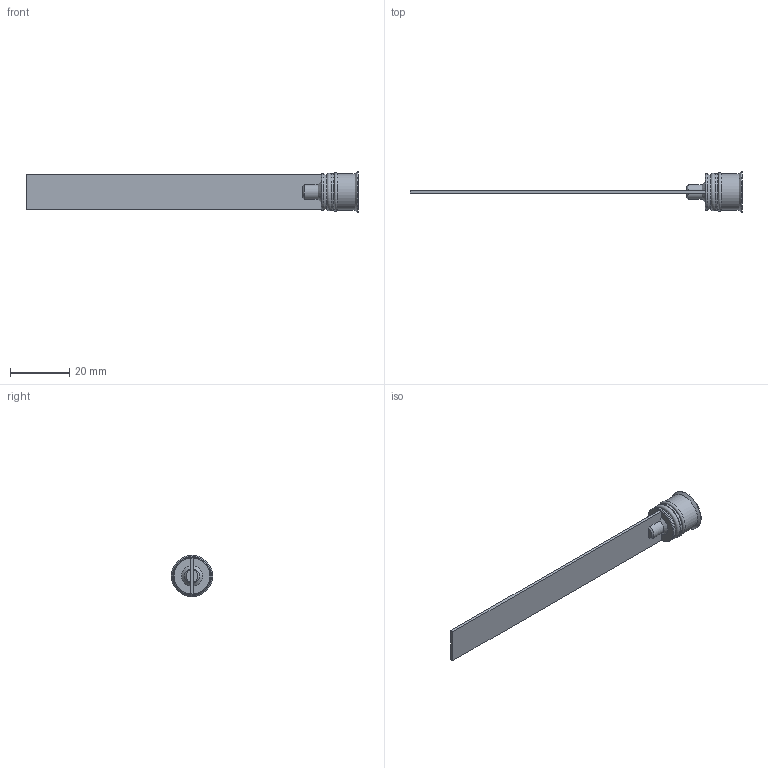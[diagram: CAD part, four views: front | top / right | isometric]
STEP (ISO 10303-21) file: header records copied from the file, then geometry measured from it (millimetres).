
FILE_DESCRIPTION( ( 'STEP AP214' ), '1' );
FILE_NAME( 'p:/temp/worker_256/temp/exporttempdir_3268_593_DZWyD/format_0/RL-12x100.stp', '2021-02-05T19:41:21', ( 'License CC BY-ND 4.0' ), ( 'CADENAS' ), ' ', 'PARTsolutions', ' ' );
FILE_SCHEMA( ( 'AUTOMOTIVE_DESIGN { 1 0 10303 214 1 1 1 1 }' ) );
Length unit declared in the file: millimetre
Products named in the file (1): _RL-12x100
Bounding box: 112.5 x 14 x 14 mm (x, y, z)
Volume: 2707.7 mm3; surface area: 3745.1 mm2
Topology: 1 solids, 1 shells, 48 faces, 116 edges, 75 vertices
Faces by surface type: plane 27, cone 10, cylinder 9, torus 2
Full cylindrical faces by diameter (mm): 6 x1, 12.5 x3, 14 x1
Entity records: 1758 total; most frequent: CARTESIAN_POINT 279, DIRECTION 216, ORIENTED_EDGE 208, EDGE_CURVE 104, AXIS2_PLACEMENT_3D 77, VERTEX_POINT 76, EDGE_LOOP 64, LINE 62
